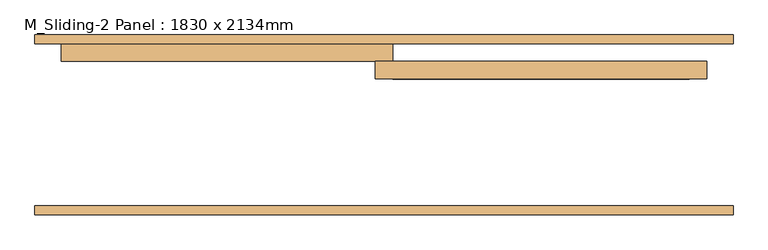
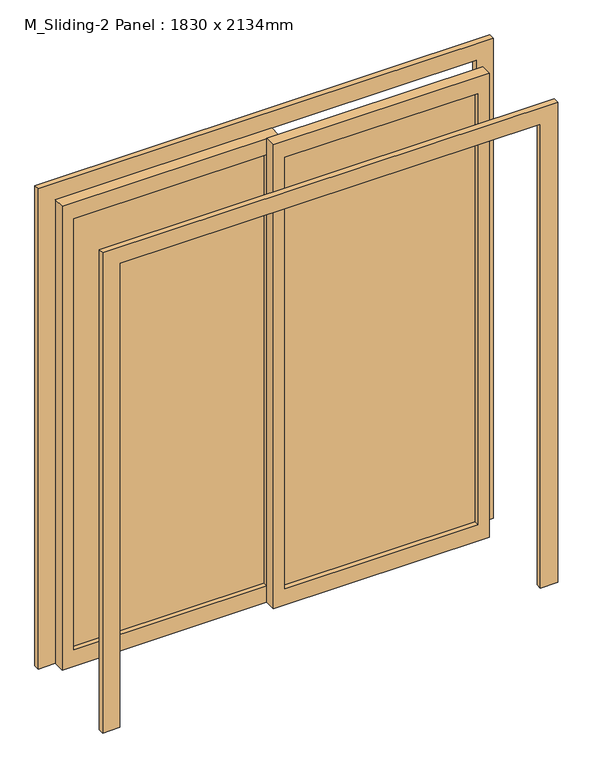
"""IFC4 building model written with IfcOpenShell, lengths in millimetres: door geometry, M_Sliding-2 Panel : 1830 x 2134mm."""

from ifc_helpers import new_model, si_unit, frame, origin, place, context, project, spatial, polyline, outline, extrude, source, transform, mapped, element, save


def m_sliding_2_panel_1830_x_2134mm_b40b9b25(model_context):
    return source(origin(), model_context, "Body", "SweptSolid", [
        extrude(outline(polyline([(25.4, 285.175), (865.0, 285.175), (865.0, 278.825), (25.4, 278.825), (25.4, 285.175)])), frame((0.0, 0.0, 75.0), z_axis=(0.0, 0.0, 1.0), x_axis=(1.0, 0.0, 0.0)), (0.0, 0.0, 1.0), 1984.0),
        extrude(outline(polyline([(2134.0, -25.4), (0.0, -25.4), (0.0, 915.0), (2134.0, 915.0), (2134.0, -25.4)]), holes=[polyline([(2059.0, 24.6), (2059.0, 865.0), (75.0, 865.0), (75.0, 24.6), (2059.0, 24.6)])]), frame((0.0, 257.0, 0.0), z_axis=(0.0, 1.0, 0.0), x_axis=(0.0, 0.0, 1.0)), (0.0, 0.0, 1.0), 50.0),
        extrude(outline(polyline([(-865.0, 335.175), (-24.6, 335.175), (-24.6, 328.825), (-865.0, 328.825), (-865.0, 335.175)])), frame((0.0, 0.0, 75.0), z_axis=(0.0, 0.0, 1.0), x_axis=(1.0, 0.0, 0.0)), (0.0, 0.0, 1.0), 1984.0),
        extrude(outline(polyline([(2134.0, 25.4), (2134.0, -915.0), (0.0, -915.0), (0.0, 25.4), (2134.0, 25.4)]), holes=[polyline([(2059.0, -24.6), (75.0, -24.6), (75.0, -865.0), (2059.0, -865.0), (2059.0, -24.6)])]), frame((0.0, 307.0, 0.0), z_axis=(0.0, 1.0, 0.0), x_axis=(0.0, 0.0, 1.0)), (0.0, 0.0, 1.0), 50.0),
        extrude(outline(polyline([(0.0, -990.0), (0.0, -915.0), (2134.0, -915.0), (2134.0, 915.0), (0.0, 915.0), (0.0, 990.0), (2209.0, 990.0), (2209.0, -990.0), (0.0, -990.0)])), frame((0.0, -128.0, 0.0), z_axis=(0.0, 1.0, 0.0), x_axis=(0.0, 0.0, 1.0)), (0.0, 0.0, 1.0), 25.0),
        extrude(outline(polyline([(0.0, 990.0), (2209.0, 990.0), (2209.0, -990.0), (0.0, -990.0), (0.0, -915.0), (2134.0, -915.0), (2134.0, 915.0), (0.0, 915.0), (0.0, 990.0)])), frame((0.0, 357.0, 0.0), z_axis=(0.0, 1.0, 0.0), x_axis=(0.0, 0.0, 1.0)), (0.0, 0.0, 1.0), 25.0),
    ])


if __name__ == "__main__":
    model = new_model("IFC4")
    model_context = context("Model", 3, world=origin())
    ifc_project = project(units=[si_unit("LENGTHUNIT", "METRE", prefix="MILLI")], contexts=[model_context])
    site = spatial("IfcSite", under=ifc_project)
    building = spatial("IfcBuilding", under=site)
    placement = place(None, origin())
    m_sliding_2_panel_1830_x_2134mm_shape = m_sliding_2_panel_1830_x_2134mm_b40b9b25(model_context)
    element("IfcDoor", 1, ObjectType="M_Sliding-2 Panel : 1830 x 2134mm", at=placement, inside=building, context=model_context, shape_type="MappedRepresentation", body=[
        mapped(m_sliding_2_panel_1830_x_2134mm_shape, transform((0.0, 0.0, 0.0), x_axis=(1.0, 0.0, 0.0), y_axis=(0.0, 1.0, 0.0), z_axis=(0.0, 0.0, 1.0))),
    ])
    save(model, "model.ifc")
